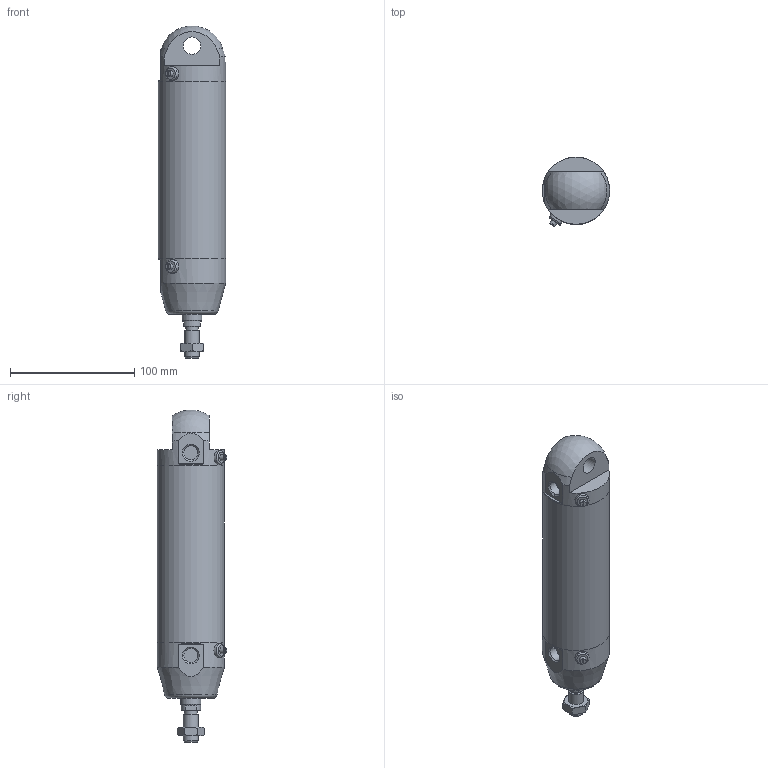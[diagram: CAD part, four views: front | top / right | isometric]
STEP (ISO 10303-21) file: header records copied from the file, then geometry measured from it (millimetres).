
FILE_DESCRIPTION(/* description */ (''),/* implementation_level */ '2;1');
FILE_NAME(/* name */ 'I:\Area Tecnica\Documenti\A-Manieri\_Inventor\12X\12X#A_###_####_#_#\12XBA_050_0100_#_#.stp',/* time_stamp */ '2015-04-24T09:18:44+02:00',/* author */ ('maniean1'),/* organization */ ('Pneumax S.p.A.'),/* preprocessor_version */ 'ST-DEVELOPER v15.2',/* originating_system */ 'Autodesk Inventor 2014',/* authorisation */ '');
FILE_SCHEMA (('AUTOMOTIVE_DESIGN { 1 0 10303 214 3 1 1 }'));
Length unit declared in the file: millimetre
Products named in the file (6): C1250_619-0100; 12X50_614; 12X50_607; S12X50_0100; 12X_50_11; 12XBA_050_0100_#_#
Bounding box: 54 x 55.88 x 266.83 mm (x, y, z)
Volume: 307637.1 mm3; surface area: 91697.7 mm2
Topology: 5 solids, 5 shells, 77 faces, 168 edges, 109 vertices
Faces by surface type: plane 43, cylinder 18, cone 12, torus 3, sphere 1
Full cylindrical faces by diameter (mm): 5 x2, 10.2 x1, 11 x2, 11.4 x2, 12 x2, 14 x2, 15.6 x1, 16 x1, 50 x2, 54 x3
Entity records: 2072 total; most frequent: CARTESIAN_POINT 428, DIRECTION 346, ORIENTED_EDGE 260, AXIS2_PLACEMENT_3D 152, EDGE_CURVE 130, EDGE_LOOP 122, VERTEX_POINT 100, ADVANCED_FACE 77
